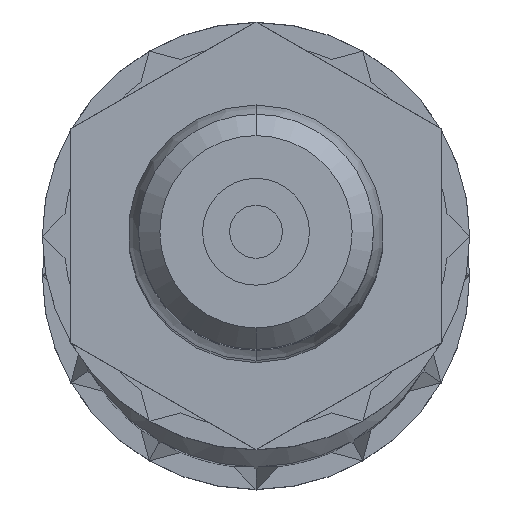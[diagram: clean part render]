
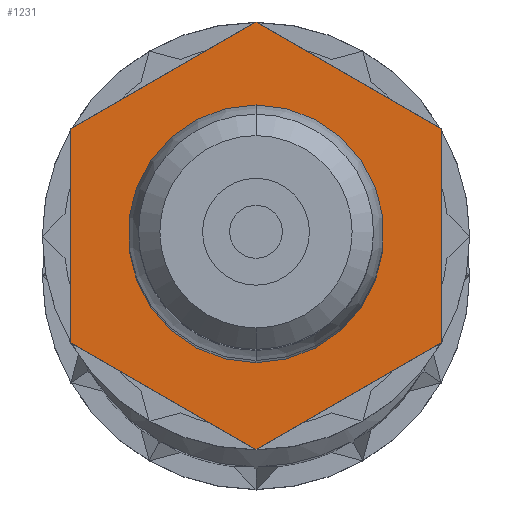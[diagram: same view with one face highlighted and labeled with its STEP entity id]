
A CAD part, top view. The second image highlights one B-rep face of the part: STEP entity #1231.
In plain terms, the highlighted planar face has unit normal (0, 0, 1).
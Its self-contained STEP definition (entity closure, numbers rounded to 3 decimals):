
#24 = CARTESIAN_POINT ( 'NONE',  ( 0., 1.1, 168.998 ) ) ;
#321 = CARTESIAN_POINT ( 'NONE',  ( 0., 2., 168.998 ) ) ;
#396 = ORIENTED_EDGE ( 'NONE', *, *, #534, .T. ) ;
#402 = EDGE_CURVE ( 'NONE', #1926, #535, #3802, .T. ) ;
#466 = EDGE_CURVE ( 'NONE', #4982, #5116, #3654, .T. ) ;
#468 = CARTESIAN_POINT ( 'NONE',  ( 0., -2., 168.998 ) ) ;
#480 = DIRECTION ( 'NONE',  ( 0., -1., 0. ) ) ;
#483 = CARTESIAN_POINT ( 'NONE',  ( -1.732, -1., 168.998 ) ) ;
#534 = EDGE_CURVE ( 'NONE', #5116, #5159, #3723, .T. ) ;
#535 = VERTEX_POINT ( 'NONE', #24 ) ;
#643 = EDGE_CURVE ( 'NONE', #1842, #3668, #3237, .T. ) ;
#688 = CARTESIAN_POINT ( 'NONE',  ( 1.732, -1., 168.998 ) ) ;
#809 = EDGE_CURVE ( 'NONE', #535, #1926, #4130, .T. ) ;
#908 = LINE ( 'NONE', #5499, #4665 ) ;
#1145 = CARTESIAN_POINT ( 'NONE',  ( 0., 2., 168.998 ) ) ;
#1220 = VECTOR ( 'NONE', #480, 1000. ) ;
#1231 = ADVANCED_FACE ( 'NONE', ( #2569, #5066 ), #3035, .F. ) ;
#1323 = VERTEX_POINT ( 'NONE', #468 ) ;
#1376 = EDGE_LOOP ( 'NONE', ( #1728, #2797 ) ) ;
#1478 = DIRECTION ( 'NONE',  ( 0., -1., 0. ) ) ;
#1482 = DIRECTION ( 'NONE',  ( 0.866, -0.5, 0. ) ) ;
#1640 = DIRECTION ( 'NONE',  ( 0., 0., -1. ) ) ;
#1695 = VECTOR ( 'NONE', #3409, 1000. ) ;
#1717 = CARTESIAN_POINT ( 'NONE',  ( -1.732, 1., 168.998 ) ) ;
#1728 = ORIENTED_EDGE ( 'NONE', *, *, #402, .T. ) ;
#1751 = CARTESIAN_POINT ( 'NONE',  ( 0., 1.1, 168.998 ) ) ;
#1842 = VERTEX_POINT ( 'NONE', #688 ) ;
#1926 = VERTEX_POINT ( 'NONE', #4661 ) ;
#2106 = VECTOR ( 'NONE', #2623, 1000. ) ;
#2225 = LINE ( 'NONE', #4491, #4324 ) ;
#2232 = AXIS2_PLACEMENT_3D ( 'NONE', #1751, #4616, #2913 ) ;
#2421 = AXIS2_PLACEMENT_3D ( 'NONE', #5391, #2835, #1478 ) ;
#2517 = DIRECTION ( 'NONE',  ( 0.866, 0.5, 0. ) ) ;
#2569 = FACE_BOUND ( 'NONE', #1376, .T. ) ;
#2588 = EDGE_CURVE ( 'NONE', #3668, #4982, #2225, .T. ) ;
#2623 = DIRECTION ( 'NONE',  ( 0., 1., 0. ) ) ;
#2742 = CARTESIAN_POINT ( 'NONE',  ( -1.732, -1., 168.998 ) ) ;
#2797 = ORIENTED_EDGE ( 'NONE', *, *, #809, .T. ) ;
#2835 = DIRECTION ( 'NONE',  ( 0., 0., -1. ) ) ;
#2913 = DIRECTION ( 'NONE',  ( 0., -1., 0. ) ) ;
#2915 = ORIENTED_EDGE ( 'NONE', *, *, #4008, .T. ) ;
#3035 = PLANE ( 'NONE',  #2232 ) ;
#3081 = CARTESIAN_POINT ( 'NONE',  ( -1.732, 1., 168.998 ) ) ;
#3206 = ORIENTED_EDGE ( 'NONE', *, *, #5254, .T. ) ;
#3237 = LINE ( 'NONE', #5178, #2106 ) ;
#3359 = CARTESIAN_POINT ( 'NONE',  ( 1.732, 1., 168.998 ) ) ;
#3409 = DIRECTION ( 'NONE',  ( -0.866, -0.5, 0. ) ) ;
#3615 = ORIENTED_EDGE ( 'NONE', *, *, #2588, .T. ) ;
#3654 = LINE ( 'NONE', #321, #1695 ) ;
#3668 = VERTEX_POINT ( 'NONE', #3359 ) ;
#3723 = LINE ( 'NONE', #3081, #1220 ) ;
#3802 = CIRCLE ( 'NONE', #4870, 1.1 ) ;
#3859 = DIRECTION ( 'NONE',  ( 0., -1., 0. ) ) ;
#3914 = EDGE_LOOP ( 'NONE', ( #3615, #5342, #396, #2915, #3206, #4165 ) ) ;
#4008 = EDGE_CURVE ( 'NONE', #5159, #1323, #5174, .T. ) ;
#4130 = CIRCLE ( 'NONE', #2421, 1.1 ) ;
#4165 = ORIENTED_EDGE ( 'NONE', *, *, #643, .T. ) ;
#4232 = CARTESIAN_POINT ( 'NONE',  ( 0., 0., 168.998 ) ) ;
#4324 = VECTOR ( 'NONE', #5400, 1000. ) ;
#4491 = CARTESIAN_POINT ( 'NONE',  ( 1.732, 1., 168.998 ) ) ;
#4616 = DIRECTION ( 'NONE',  ( 0., 0., -1. ) ) ;
#4661 = CARTESIAN_POINT ( 'NONE',  ( 0., -1.1, 168.998 ) ) ;
#4665 = VECTOR ( 'NONE', #2517, 1000. ) ;
#4870 = AXIS2_PLACEMENT_3D ( 'NONE', #4232, #1640, #3859 ) ;
#4982 = VERTEX_POINT ( 'NONE', #1145 ) ;
#5066 = FACE_OUTER_BOUND ( 'NONE', #3914, .T. ) ;
#5096 = VECTOR ( 'NONE', #1482, 1000. ) ;
#5116 = VERTEX_POINT ( 'NONE', #1717 ) ;
#5159 = VERTEX_POINT ( 'NONE', #483 ) ;
#5174 = LINE ( 'NONE', #2742, #5096 ) ;
#5178 = CARTESIAN_POINT ( 'NONE',  ( 1.732, -1., 168.998 ) ) ;
#5254 = EDGE_CURVE ( 'NONE', #1323, #1842, #908, .T. ) ;
#5342 = ORIENTED_EDGE ( 'NONE', *, *, #466, .T. ) ;
#5391 = CARTESIAN_POINT ( 'NONE',  ( 0., 0., 168.998 ) ) ;
#5400 = DIRECTION ( 'NONE',  ( -0.866, 0.5, 0. ) ) ;
#5499 = CARTESIAN_POINT ( 'NONE',  ( 0., -2., 168.998 ) ) ;
